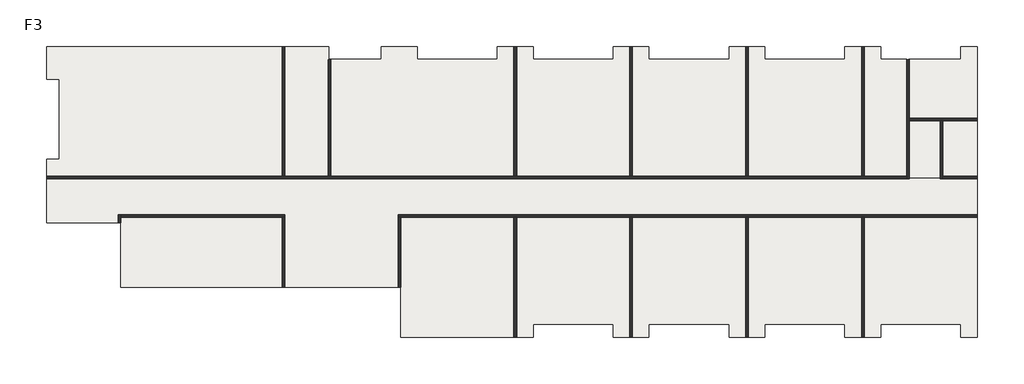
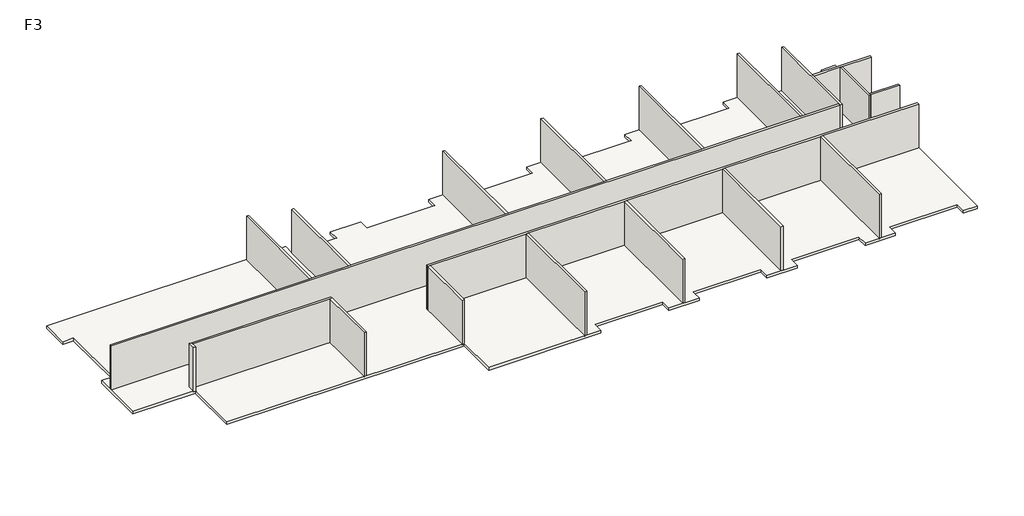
# One storey: 20 walls, 4 slabs.
"""IFC4 building model written with IfcOpenShell, lengths in millimetres."""

import ifcopenshell
import ifcopenshell.guid

model = None  # the IFC model being written
_history = None  # IfcOwnerHistory: only IFC2X3 demands one
_inside = {}  # id of a spatial element -> (the spatial element, [elements in it])
_under = {}  # id of a project, library or spatial element -> (it, [spatial elements below it])
_declared = {}  # id of a project -> (the project, [libraries it declares])
_typed = {}  # id of a type object -> (the type object, [elements of that type])
_made_of = {}  # id of a material, layer set ... -> (it, [elements and type objects made of it])


def new_model(schema):
    """Start an empty IFC model of exactly this schema.

    Asked for "IFC4X3", IfcOpenShell would pick the latest addendum, in which some entities
    have other attributes; the version numbers below select the first issue.
    IFC2X3 requires an IfcOwnerHistory on every rooted entity: one is made here for all.
    """
    global model, _history
    if schema == "IFC4X3":
        model = ifcopenshell.file(schema_version=(4, 3, 0, 0))
    else:
        model = ifcopenshell.file(schema=schema)
    _inside.clear()
    _under.clear()
    _declared.clear()
    _typed.clear()
    _made_of.clear()
    _history = None
    if model.schema == "IFC2X3":
        org = make("IfcOrganization", Name="unknown")
        user = make(
            "IfcPersonAndOrganization",
            ThePerson=make("IfcPerson", FamilyName="unknown"),
            TheOrganization=org,
        )
        app = make(
            "IfcApplication",
            ApplicationDeveloper=org,
            Version="unknown",
            ApplicationFullName="unknown",
            ApplicationIdentifier="unknown",
        )
        _history = make(
            "IfcOwnerHistory",
            OwningUser=user,
            OwningApplication=app,
            ChangeAction="ADDED",
            CreationDate=0,
        )
    return model


def make(cls, **values):
    """One entity of the class cls with the attributes given. An attribute that is None is left unset."""
    return model.create_entity(
        cls, **{name: value for name, value in values.items() if value is not None}
    )


def rooted(cls, **values):
    """An entity with a GlobalId (a new one), such as an element, a storey or a relation."""
    return make(cls, GlobalId=ifcopenshell.guid.new(), OwnerHistory=_history, **values)


def si_unit(unit_type, name, prefix=None):
    """IfcSIUnit, for example si_unit("LENGTHUNIT", "METRE", prefix="MILLI")."""
    return make("IfcSIUnit", UnitType=unit_type, Prefix=prefix, Name=name)


def assignment(units):
    """IfcUnitAssignment: the units of a project."""
    return None if units is None else make("IfcUnitAssignment", Units=units)


def point(xyz):
    """IfcCartesianPoint."""
    return None if xyz is None else make("IfcCartesianPoint", Coordinates=xyz)


def direction(xyz):
    """IfcDirection."""
    return None if xyz is None else make("IfcDirection", DirectionRatios=xyz)


def frame(location, z_axis=None, x_axis=None):
    """IfcAxis2Placement3D, a coordinate frame: its origin and axes. An axis left out is left unset."""
    return make(
        "IfcAxis2Placement3D",
        Location=point(location),
        Axis=direction(z_axis),
        RefDirection=direction(x_axis),
    )


def origin():
    """The frame at (0, 0, 0) with its axes left unset."""
    return frame((0.0, 0.0, 0.0))


def place(relative_to, where):
    """IfcLocalPlacement: puts the frame where relative to a parent placement (None: the world)."""
    return make(
        "IfcLocalPlacement", PlacementRelTo=relative_to, RelativePlacement=where
    )


def context(
    kind, dimensions, precision=None, world=None, true_north=None, identifier=None
):
    """IfcGeometricRepresentationContext, for example the 3D "Model" context."""
    return make(
        "IfcGeometricRepresentationContext",
        ContextIdentifier=identifier,
        ContextType=kind,
        CoordinateSpaceDimension=dimensions,
        Precision=precision,
        WorldCoordinateSystem=world,
        TrueNorth=true_north,
    )


def project(units=None, contexts=None):
    """IfcProject with its units and contexts."""
    return rooted(
        "IfcProject",
        Name="project",
        RepresentationContexts=contexts,
        UnitsInContext=assignment(units),
    )


def spatial(cls, under=None, at=None, **own):
    """A site, building, storey or space (cls), placed at a placement, below another one or the project."""
    s = rooted(cls, ObjectPlacement=at, **own)
    if under is not None:
        _under.setdefault(under.id(), (under, []))[1].append(s)
    return s


def polyline(points):
    """IfcPolyline through the points."""
    return make("IfcPolyline", Points=[point(p) for p in points])


def outline(outer, holes=None, kind="AREA"):
    """IfcArbitraryClosedProfileDef: a profile drawn as a closed curve; with holes, ...WithVoids."""
    if holes is None:
        return make("IfcArbitraryClosedProfileDef", ProfileType=kind, OuterCurve=outer)
    return make(
        "IfcArbitraryProfileDefWithVoids",
        ProfileType=kind,
        OuterCurve=outer,
        InnerCurves=holes,
    )


def extrude(swept, where, along, depth):
    """IfcExtrudedAreaSolid: the profile swept, set in the frame where, extruded along a direction by depth."""
    return make(
        "IfcExtrudedAreaSolid",
        SweptArea=swept,
        Position=where,
        ExtrudedDirection=direction(along),
        Depth=depth,
    )


def faces_of(points, faces, orient=None, outer=None):
    """IfcFace entities. A face is a list of loops; a loop is a list of indices into points, from 0.

    orient and outer hold one flag for each loop. By default every Orientation is true, the
    first loop of a face is its IfcFaceOuterBound and the others are IfcFaceBound.
    """
    made = []
    for i, loops in enumerate(faces):
        bounds = []
        for j, loop in enumerate(loops):
            is_outer = j == 0 if outer is None else outer[i][j]
            bounds.append(
                make(
                    "IfcFaceOuterBound" if is_outer else "IfcFaceBound",
                    Bound=make("IfcPolyLoop", Polygon=[points[k] for k in loop]),
                    Orientation=True if orient is None else orient[i][j],
                )
            )
        made.append(make("IfcFace", Bounds=bounds))
    return made


def faceted_brep(points, faces, orient=None, outer=None, voids=None):
    """IfcFacetedBrep: a solid bounded by flat faces; with voids (closed shells), ...WithVoids."""
    shared = [point(p) for p in points]
    hull = make("IfcClosedShell", CfsFaces=faces_of(shared, faces, orient, outer))
    if voids is None:
        return make("IfcFacetedBrep", Outer=hull)
    return make(
        "IfcFacetedBrepWithVoids",
        Outer=hull,
        Voids=[
            make(cls, CfsFaces=faces_of(shared, fs, o, b)) for cls, fs, o, b in voids
        ],
    )


def shape(context_of_items, identifier, shape_type, items):
    """IfcShapeRepresentation: the items that make up one representation, for example the "Body"."""
    return make(
        "IfcShapeRepresentation",
        ContextOfItems=context_of_items,
        RepresentationIdentifier=identifier,
        RepresentationType=shape_type,
        Items=items,
    )


def made_of(thing, what):
    """Note that an element or type object is made of a material, layer set ...; save() writes the relation."""
    if what is not None:
        _made_of.setdefault(what.id(), (what, []))[1].append(thing)
    return thing


def element(
    cls,
    number,
    at=None,
    inside=None,
    cuts=None,
    type_object=None,
    material=None,
    context=None,
    identifier="Body",
    shape_type=None,
    held_by="IfcProductDefinitionShape",
    body=None,
    shapes=None,
    **own,
):
    """One element of the class cls, such as IfcWall. Its Tag is "e" and its number.

    at: its placement. inside: the storey or other place that contains it. cuts: it is an
    opening in that element (IfcRelVoidsElement). A single representation is given by context,
    identifier, shape_type and body (its items); several are given by shapes. held_by: the class
    of the entity that holds the representations. save() writes the other relations.
    """
    e = rooted(cls, Tag="e%d" % number, ObjectPlacement=at, **own)
    if body is not None:
        shapes = [shape(context, identifier, shape_type, body)]
    if shapes is not None:
        e.Representation = make(held_by, Representations=shapes)
    if inside is not None:
        _inside.setdefault(inside.id(), (inside, []))[1].append(e)
    if cuts is not None:
        rooted(
            "IfcRelVoidsElement", RelatingBuildingElement=cuts, RelatedOpeningElement=e
        )
    if type_object is not None:
        _typed.setdefault(type_object.id(), (type_object, []))[1].append(e)
    return made_of(e, material)


def aggregate(whole, parts):
    """IfcRelAggregates: a whole, such as a stair, and the parts it consists of."""
    return rooted("IfcRelAggregates", RelatingObject=whole, RelatedObjects=parts)


def save(model, path):
    """Write the relations noted so far, then the file.

    IfcRelAggregates (storeys below a building ...), IfcRelContainedInSpatialStructure (elements
    in a storey), IfcRelDefinesByType, IfcRelAssociatesMaterial and IfcRelDeclares: one each for
    every whole, place, type object, material and project.
    """
    for whole, parts in _under.values():
        aggregate(whole, parts)
    for where, things in _inside.values():
        rooted(
            "IfcRelContainedInSpatialStructure",
            RelatedElements=things,
            RelatingStructure=where,
        )
    for kind, things in _typed.values():
        rooted("IfcRelDefinesByType", RelatedObjects=things, RelatingType=kind)
    for what, things in _made_of.values():
        rooted("IfcRelAssociatesMaterial", RelatedObjects=things, RelatingMaterial=what)
    for by, libraries in _declared.values():
        rooted("IfcRelDeclares", RelatingContext=by, RelatedDefinitions=libraries)
    model.write(path)


model = new_model("IFC4")

# Units and contexts
model_context = context("Model", 3, world=origin())
ifc_project = project(units=[si_unit("LENGTHUNIT", "METRE", prefix="MILLI")], contexts=[model_context])

# Site, building, storey
site = spatial("IfcSite", under=ifc_project)
building = spatial("IfcBuilding", under=site)
storey = spatial("IfcBuildingStorey", under=building, Name="F3", Elevation=7200.0)

# Slabs
placement = place(None, origin())
element("IfcSlab", 1, ObjectType="綜合樓-15cm-室內", at=placement, inside=storey, context=model_context, shape_type="SweptSolid", body=[
    extrude(outline(polyline([(-27040.2182017, -14306.7926211), (-27040.2182017, -10371.7926211), (-26250.2182017, -10371.7926211), (-26250.2182017, -5391.7926211), (-27040.2182017, -5391.7926211), (-27040.2182017, -3356.7926211), (-9505.2182017, -3356.7926211), (-9505.2182017, -4146.7926211), (-6225.2182017, -4146.7926211), (-6225.2182017, -3356.7926211), (-4005.2182017, -3356.7926211), (-4005.2182017, -4146.7926211), (974.7817983, -4146.7926211), (974.7817983, -3356.7926211), (3194.7817983, -3356.7926211), (3194.7817983, -4146.7926211), (8174.7817983, -4146.7926211), (8174.7817983, -3356.7926211), (10394.7817983, -3356.7926211), (10394.7817983, -4146.7926211), (15374.7817983, -4146.7926211), (15374.7817983, -3356.7926211), (17594.7817983, -3356.7926211), (17594.7817983, -4146.7926211), (22574.7817983, -4146.7926211), (22574.7817983, -3356.7926211), (24794.7817983, -3356.7926211), (24794.7817983, -4146.7926211), (26424.7817983, -4146.7926211), (26424.7817983, -11541.7926211), (30809.7817983, -11541.7926211), (30809.7817983, -21406.7926211), (29774.7817983, -21406.7926211), (29774.7817983, -20616.7926211), (24794.7817983, -20616.7926211), (24794.7817983, -21406.7926211), (22574.7817983, -21406.7926211), (22574.7817983, -20616.7926211), (17594.7817983, -20616.7926211), (17594.7817983, -21406.7926211), (15374.7817983, -21406.7926211), (15374.7817983, -20616.7926211), (10394.7817983, -20616.7926211), (10394.7817983, -21406.7926211), (8174.7817983, -21406.7926211), (8174.7817983, -20616.7926211), (3194.7817983, -20616.7926211), (3194.7817983, -21406.7926211), (-5040.2182017, -21406.7926211), (-5040.2182017, -18306.7926211), (-22440.2182017, -18306.7926211), (-22440.2182017, -14306.7926211), (-27040.2182017, -14306.7926211)])), frame((0.0, 0.0, 7050.0), z_axis=(0.0, 0.0, 1.0), x_axis=(1.0, 0.0, 0.0)), (0.0, 0.0, 1.0), 200.0),
])
element("IfcSlab", 2, ObjectType="洗手間地版", at=placement, inside=storey, context=model_context, shape_type="SweptSolid", body=[
    extrude(outline(polyline([(28524.7817983, -7941.0130428), (28524.7817983, -11541.0130428), (26544.7817983, -11541.0130428), (26544.7817983, -7941.0130428), (28524.7817983, -7941.0130428)])), frame((0.0, 0.0, 7030.0), z_axis=(0.0, 0.0, 1.0), x_axis=(1.0, 0.0, 0.0)), (0.0, 0.0, 1.0), 200.0),
])
element("IfcSlab", 3, ObjectType="洗手間地版", at=placement, inside=storey, context=model_context, shape_type="SweptSolid", body=[
    extrude(outline(polyline([(28644.7817983, -7941.7926211), (30809.7817983, -7941.7926211), (30809.7817983, -11421.7926211), (28644.7817983, -11421.7926211), (28644.7817983, -7941.7926211)])), frame((0.0, 0.0, 7010.0), z_axis=(0.0, 0.0, 1.0), x_axis=(1.0, 0.0, 0.0)), (0.0, 0.0, 1.0), 200.0),
])
element("IfcSlab", 4, ObjectType="洗手間地版", at=placement, inside=storey, context=model_context, shape_type="SweptSolid", body=[
    extrude(outline(polyline([(29774.7817983, -4146.7926211), (29774.7817983, -3356.7926211), (30809.7817983, -3356.7926211), (30809.7817983, -7821.7926211), (26544.7817983, -7821.7926211), (26544.7817983, -4146.7926211), (29774.7817983, -4146.7926211)])), frame((0.0, 0.0, 7010.0), z_axis=(0.0, 0.0, 1.0), x_axis=(1.0, 0.0, 0.0)), (0.0, 0.0, 1.0), 200.0),
])

# Walls
element("IfcWall", 5, ObjectType="F1-12cm-內牆", at=placement, inside=storey, context=model_context, shape_type="Brep", body=[
    faceted_brep([(26404.7817983, -4166.7926211, 7200.0), (26404.7817983, -11401.7926211, 7200.0), (26404.7817983, -11561.7926211, 7200.0), (26404.7817983, -11561.7926211, 10650.0), (26404.7817983, -11401.7926211, 10650.0), (26404.7817983, -4166.7926211, 10650.0), (26564.7817983, -4166.7926211, 7200.0), (26564.7817983, -4166.7926211, 10650.0), (26564.7817983, -7801.7926211, 10650.0), (26564.7817983, -7961.7926211, 10650.0), (26564.7817983, -11561.7926211, 10650.0), (26564.7817983, -11561.7926211, 7200.0), (26564.7817983, -7961.7926211, 7200.0), (26564.7817983, -7801.7926211, 7200.0)], [[[0, 1, 2, 3, 4, 5]], [[6, 7, 8, 9, 10, 11, 12, 13]], [[2, 1, 0, 6, 13, 12, 11]], [[5, 4, 3, 10, 9, 8, 7]], [[3, 2, 11, 10]], [[0, 5, 7, 6]]]),
])
element("IfcWall", 6, ObjectType="F1-12cm-內牆", at=placement, inside=storey, context=model_context, shape_type="Brep", body=[
    faceted_brep([(26404.7817983, -11401.7926211, 7200.0), (23764.7817983, -11401.7926211, 7200.0), (23604.7817983, -11401.7926211, 7200.0), (16564.7817983, -11401.7926211, 7200.0), (16404.7817983, -11401.7926211, 7200.0), (9364.7817983, -11401.7926211, 7200.0), (9204.7817983, -11401.7926211, 7200.0), (2164.7817983, -11401.7926211, 7200.0), (2004.7817983, -11401.7926211, 7200.0), (-9365.2182017, -11401.7926211, 7200.0), (-9525.2182017, -11401.7926211, 7200.0), (-12225.2182017, -11401.7926211, 7200.0), (-12385.2182017, -11401.7926211, 7200.0), (-27020.2182017, -11401.7926211, 7200.0), (-27020.2182017, -11401.7926211, 10650.0), (-12385.2182017, -11401.7926211, 10650.0), (-12225.2182017, -11401.7926211, 10650.0), (-9525.2182017, -11401.7926211, 10650.0), (-9365.2182017, -11401.7926211, 10650.0), (2004.7817983, -11401.7926211, 10650.0), (2164.7817983, -11401.7926211, 10650.0), (9204.7817983, -11401.7926211, 10650.0), (9364.7817983, -11401.7926211, 10650.0), (16404.7817983, -11401.7926211, 10650.0), (16564.7817983, -11401.7926211, 10650.0), (23604.7817983, -11401.7926211, 10650.0), (23764.7817983, -11401.7926211, 10650.0), (26404.7817983, -11401.7926211, 10650.0), (26404.7817983, -11561.7926211, 7200.0), (26404.7817983, -11561.7926211, 10650.0), (-27020.2182017, -11561.7926211, 10650.0), (-27020.2182017, -11561.7926211, 7200.0)], [[[0, 1, 2, 3, 4, 5, 6, 7, 8, 9, 10, 11, 12, 13, 14, 15, 16, 17, 18, 19, 20, 21, 22, 23, 24, 25, 26, 27]], [[28, 29, 30, 31]], [[13, 12, 11, 10, 9, 8, 7, 6, 5, 4, 3, 2, 1, 0, 28, 31]], [[27, 26, 25, 24, 23, 22, 21, 20, 19, 18, 17, 16, 15, 14, 30, 29]], [[0, 27, 29, 28]], [[14, 13, 31, 30]]]),
])
element("IfcWall", 7, ObjectType="F1-12cm-內牆", at=placement, inside=storey, context=model_context, shape_type="SweptSolid", body=[
    extrude(outline(polyline([(-9365.2182017, -4166.7926211), (-9365.2182017, -11401.7926211), (-9525.2182017, -11401.7926211), (-9525.2182017, -4166.7926211), (-9365.2182017, -4166.7926211)])), frame((0.0, 0.0, 7200.0), z_axis=(0.0, 0.0, 1.0), x_axis=(1.0, 0.0, 0.0)), (0.0, 0.0, 1.0), 3450.0),
])
element("IfcWall", 8, ObjectType="F1-12cm-內牆", at=placement, inside=storey, context=model_context, shape_type="Brep", body=[
    faceted_brep([(30789.7817983, -7801.7926211, 7200.0), (26564.7817983, -7801.7926211, 7200.0), (26564.7817983, -7801.7926211, 10650.0), (30789.7817983, -7801.7926211, 10650.0), (30789.7817983, -7961.7926211, 7200.0), (30789.7817983, -7961.7926211, 10650.0), (28664.7817983, -7961.7926211, 10650.0), (28504.7817983, -7961.7926211, 10650.0), (26564.7817983, -7961.7926211, 10650.0), (26564.7817983, -7961.7926211, 7200.0), (28504.7817983, -7961.7926211, 7200.0), (28664.7817983, -7961.7926211, 7200.0)], [[[0, 1, 2, 3]], [[4, 5, 6, 7, 8, 9, 10, 11]], [[1, 0, 4, 11, 10, 9]], [[3, 2, 8, 7, 6, 5]], [[2, 1, 9, 8]], [[0, 3, 5, 4]]]),
])
element("IfcWall", 9, ObjectType="F1-12cm-內牆", at=placement, inside=storey, context=model_context, shape_type="Brep", body=[
    faceted_brep([(28504.7817983, -7961.7926211, 7200.0), (28504.7817983, -11561.7926211, 7200.0), (28504.7817983, -11561.7926211, 10650.0), (28504.7817983, -7961.7926211, 10650.0), (28664.7817983, -7961.7926211, 7200.0), (28664.7817983, -7961.7926211, 10650.0), (28664.7817983, -11401.7926211, 10650.0), (28664.7817983, -11561.7926211, 10650.0), (28664.7817983, -11561.7926211, 7200.0), (28664.7817983, -11401.7926211, 7200.0)], [[[0, 1, 2, 3]], [[4, 5, 6, 7, 8, 9]], [[1, 0, 4, 9, 8]], [[3, 2, 7, 6, 5]], [[0, 3, 5, 4]], [[2, 1, 8, 7]]]),
])
element("IfcWall", 10, ObjectType="F1-12cm-內牆", at=placement, inside=storey, context=model_context, shape_type="SweptSolid", body=[
    extrude(outline(polyline([(30789.7817983, -11561.7926211), (28664.7817983, -11561.7926211), (28664.7817983, -11401.7926211), (30789.7817983, -11401.7926211), (30789.7817983, -11561.7926211)])), frame((0.0, 0.0, 7200.0), z_axis=(0.0, 0.0, 1.0), x_axis=(1.0, 0.0, 0.0)), (0.0, 0.0, 1.0), 3450.0),
])
element("IfcWall", 11, ObjectType="F1-12cm-內牆", at=placement, inside=storey, context=model_context, shape_type="SweptSolid", body=[
    extrude(outline(polyline([(23764.7817983, -3381.7926211), (23764.7817983, -11401.7926211), (23604.7817983, -11401.7926211), (23604.7817983, -3381.7926211), (23764.7817983, -3381.7926211)])), frame((0.0, 0.0, 7200.0), z_axis=(0.0, 0.0, 1.0), x_axis=(1.0, 0.0, 0.0)), (0.0, 0.0, 1.0), 3450.0),
])
element("IfcWall", 12, ObjectType="F1-12cm-內牆", at=placement, inside=storey, context=model_context, shape_type="SweptSolid", body=[
    extrude(outline(polyline([(16404.7817983, -11401.7926211), (16404.7817983, -3376.7926211), (16564.7817983, -3376.7926211), (16564.7817983, -11401.7926211), (16404.7817983, -11401.7926211)])), frame((0.0, 0.0, 7200.0), z_axis=(0.0, 0.0, 1.0), x_axis=(1.0, 0.0, 0.0)), (0.0, 0.0, 1.0), 3450.0),
])
element("IfcWall", 13, ObjectType="F1-12cm-內牆", at=placement, inside=storey, context=model_context, shape_type="SweptSolid", body=[
    extrude(outline(polyline([(2004.7817983, -11401.7926211), (2004.7817983, -3376.7926211), (2164.7817983, -3376.7926211), (2164.7817983, -11401.7926211), (2004.7817983, -11401.7926211)])), frame((0.0, 0.0, 7200.0), z_axis=(0.0, 0.0, 1.0), x_axis=(1.0, 0.0, 0.0)), (0.0, 0.0, 1.0), 3450.0),
])
element("IfcWall", 14, ObjectType="F1-12cm-內牆", at=placement, inside=storey, context=model_context, shape_type="SweptSolid", body=[
    extrude(outline(polyline([(9204.7817983, -11401.7926211), (9204.7817983, -3376.7926211), (9364.7817983, -3376.7926211), (9364.7817983, -11401.7926211), (9204.7817983, -11401.7926211)])), frame((0.0, 0.0, 7200.0), z_axis=(0.0, 0.0, 1.0), x_axis=(1.0, 0.0, 0.0)), (0.0, 0.0, 1.0), 3450.0),
])
element("IfcWall", 15, ObjectType="F1-12cm-內牆", at=placement, inside=storey, context=model_context, shape_type="SweptSolid", body=[
    extrude(outline(polyline([(2164.7817983, -13971.7926211), (2164.7817983, -21386.7926211), (2004.7817983, -21386.7926211), (2004.7817983, -13971.7926211), (2164.7817983, -13971.7926211)])), frame((0.0, 0.0, 7200.0), z_axis=(0.0, 0.0, 1.0), x_axis=(1.0, 0.0, 0.0)), (0.0, 0.0, 1.0), 3450.0),
])
element("IfcWall", 16, ObjectType="F1-12cm-內牆", at=placement, inside=storey, context=model_context, shape_type="SweptSolid", body=[
    extrude(outline(polyline([(9364.7817983, -13971.7926211), (9364.7817983, -21386.7926211), (9204.7817983, -21386.7926211), (9204.7817983, -13971.7926211), (9364.7817983, -13971.7926211)])), frame((0.0, 0.0, 7200.0), z_axis=(0.0, 0.0, 1.0), x_axis=(1.0, 0.0, 0.0)), (0.0, 0.0, 1.0), 3450.0),
])
element("IfcWall", 17, ObjectType="F1-12cm-內牆", at=placement, inside=storey, context=model_context, shape_type="SweptSolid", body=[
    extrude(outline(polyline([(16564.7817983, -13971.7926211), (16564.7817983, -21386.7926211), (16404.7817983, -21386.7926211), (16404.7817983, -13971.7926211), (16564.7817983, -13971.7926211)])), frame((0.0, 0.0, 7200.0), z_axis=(0.0, 0.0, 1.0), x_axis=(1.0, 0.0, 0.0)), (0.0, 0.0, 1.0), 3450.0),
])
element("IfcWall", 18, ObjectType="F1-12cm-內牆", at=placement, inside=storey, context=model_context, shape_type="SweptSolid", body=[
    extrude(outline(polyline([(23764.7817983, -13971.7926211), (23764.7817983, -21386.7926211), (23604.7817983, -21386.7926211), (23604.7817983, -13971.7926211), (23764.7817983, -13971.7926211)])), frame((0.0, 0.0, 7200.0), z_axis=(0.0, 0.0, 1.0), x_axis=(1.0, 0.0, 0.0)), (0.0, 0.0, 1.0), 3450.0),
])
element("IfcWall", 19, ObjectType="F1-12cm-內牆", at=placement, inside=storey, context=model_context, shape_type="Brep", body=[
    faceted_brep([(-5195.2182017, -13971.7926211, 7200.0), (-5035.2182017, -13971.7926211, 7200.0), (2004.7817983, -13971.7926211, 7200.0), (2164.7817983, -13971.7926211, 7200.0), (9204.7817983, -13971.7926211, 7200.0), (9364.7817983, -13971.7926211, 7200.0), (16404.7817983, -13971.7926211, 7200.0), (16564.7817983, -13971.7926211, 7200.0), (23604.7817983, -13971.7926211, 7200.0), (23764.7817983, -13971.7926211, 7200.0), (30789.7817983, -13971.7926211, 7200.0), (30789.7817983, -13971.7926211, 10650.0), (23764.7817983, -13971.7926211, 10650.0), (23604.7817983, -13971.7926211, 10650.0), (16564.7817983, -13971.7926211, 10650.0), (16404.7817983, -13971.7926211, 10650.0), (9364.7817983, -13971.7926211, 10650.0), (9204.7817983, -13971.7926211, 10650.0), (2164.7817983, -13971.7926211, 10650.0), (2004.7817983, -13971.7926211, 10650.0), (-5035.2182017, -13971.7926211, 10650.0), (-5195.2182017, -13971.7926211, 10650.0), (-5195.2182017, -13811.7926211, 7200.0), (-5195.2182017, -13811.7926211, 10650.0), (30789.7817983, -13811.7926211, 10650.0), (30789.7817983, -13811.7926211, 7200.0)], [[[0, 1, 2, 3, 4, 5, 6, 7, 8, 9, 10, 11, 12, 13, 14, 15, 16, 17, 18, 19, 20, 21]], [[22, 23, 24, 25]], [[10, 9, 8, 7, 6, 5, 4, 3, 2, 1, 0, 22, 25]], [[21, 20, 19, 18, 17, 16, 15, 14, 13, 12, 11, 24, 23]], [[11, 10, 25, 24]], [[0, 21, 23, 22]]]),
])
element("IfcWall", 20, ObjectType="F1-12cm-內牆", at=placement, inside=storey, context=model_context, shape_type="Brep", body=[
    faceted_brep([(-22435.2182017, -14306.7926211, 7200.0), (-22435.2182017, -13961.7926211, 7200.0), (-22435.2182017, -13801.7926211, 7200.0), (-22435.2182017, -13801.7926211, 10650.0), (-22435.2182017, -13961.7926211, 10650.0), (-22435.2182017, -14306.7926211, 10650.0), (-22595.2182017, -14306.7926211, 7200.0), (-22595.2182017, -14306.7926211, 10650.0), (-22595.2182017, -13801.7926211, 10650.0), (-22595.2182017, -13801.7926211, 7200.0)], [[[0, 1, 2, 3, 4, 5]], [[6, 7, 8, 9]], [[2, 1, 0, 6, 9]], [[5, 4, 3, 8, 7]], [[0, 5, 7, 6]], [[3, 2, 9, 8]]]),
])
element("IfcWall", 21, ObjectType="F1-12cm-內牆", at=placement, inside=storey, context=model_context, shape_type="Brep", body=[
    faceted_brep([(-22435.2182017, -13961.7926211, 7200.0), (-12385.2182017, -13961.7926211, 7200.0), (-12225.2182017, -13961.7926211, 7200.0), (-12225.2182017, -13961.7926211, 10650.0), (-12385.2182017, -13961.7926211, 10650.0), (-22435.2182017, -13961.7926211, 10650.0), (-22435.2182017, -13801.7926211, 7200.0), (-22435.2182017, -13801.7926211, 10650.0), (-12225.2182017, -13801.7926211, 10650.0), (-12225.2182017, -13801.7926211, 7200.0)], [[[0, 1, 2, 3, 4, 5]], [[6, 7, 8, 9]], [[2, 1, 0, 6, 9]], [[5, 4, 3, 8, 7]], [[0, 5, 7, 6]], [[3, 2, 9, 8]]]),
])
element("IfcWall", 22, ObjectType="F1-12cm-內牆", at=placement, inside=storey, context=model_context, shape_type="SweptSolid", body=[
    extrude(outline(polyline([(-12385.2182017, -18301.7926211), (-12385.2182017, -13961.7926211), (-12225.2182017, -13961.7926211), (-12225.2182017, -18301.7926211), (-12385.2182017, -18301.7926211)])), frame((0.0, 0.0, 7200.0), z_axis=(0.0, 0.0, 1.0), x_axis=(1.0, 0.0, 0.0)), (0.0, 0.0, 1.0), 3450.0),
])
element("IfcWall", 23, ObjectType="F1-12cm-內牆", at=placement, inside=storey, context=model_context, shape_type="SweptSolid", body=[
    extrude(outline(polyline([(-12385.2182017, -11401.7926211), (-12385.2182017, -3376.7926211), (-12225.2182017, -3376.7926211), (-12225.2182017, -11401.7926211), (-12385.2182017, -11401.7926211)])), frame((0.0, 0.0, 7200.0), z_axis=(0.0, 0.0, 1.0), x_axis=(1.0, 0.0, 0.0)), (0.0, 0.0, 1.0), 3450.0),
])
element("IfcWall", 24, ObjectType="F1-12cm-內牆", at=placement, inside=storey, context=model_context, shape_type="SweptSolid", body=[
    extrude(outline(polyline([(-5035.2182017, -13971.7926211), (-5035.2182017, -18306.7926211), (-5195.2182017, -18306.7926211), (-5195.2182017, -13971.7926211), (-5035.2182017, -13971.7926211)])), frame((0.0, 0.0, 7200.0), z_axis=(0.0, 0.0, 1.0), x_axis=(1.0, 0.0, 0.0)), (0.0, 0.0, 1.0), 3450.0),
])

save(model, "model.ifc")
